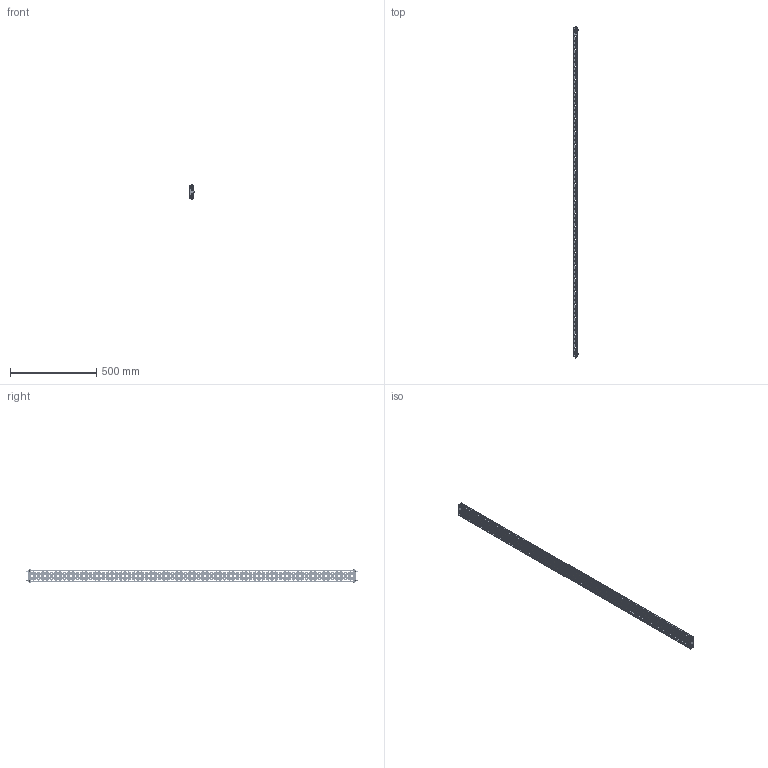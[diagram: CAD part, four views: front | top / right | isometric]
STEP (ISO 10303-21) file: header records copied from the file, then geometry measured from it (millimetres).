
FILE_DESCRIPTION(('Open CASCADE Model'),'2;1');
FILE_NAME('Open CASCADE Shape Model','2025-01-16T16:27:12',('Author'),( 'Open CASCADE'),'Open CASCADE STEP processor 7.8','Open CASCADE 7.8' ,'Unknown');
FILE_SCHEMA(('AUTOMOTIVE_DESIGN { 1 0 10303 214 1 1 1 1 }'));
Products named in the file (1): Solid1
Bounding box: 28.56 x 1920 x 82.12 mm (x, y, z)
Surface area: 478029.1 mm2 (no closed solid volume)
Topology: 0 solids, 71 shells, 8177 faces, 24201 edges, 16098 vertices
Faces by surface type: cylinder 5495, plane 2582, torus 40, cone 20, bspline 20, sphere 20
Full cylindrical faces by diameter (mm): 5 x10
Entity records: 370495 total; most frequent: CARTESIAN_POINT 194619, ORIENTED_EDGE 48304, EDGE_CURVE 24181, B_SPLINE_CURVE_WITH_KNOTS 23505, DIRECTION 17340, VERTEX_POINT 16098, FACE_BOUND 10215, EDGE_LOOP 10215
